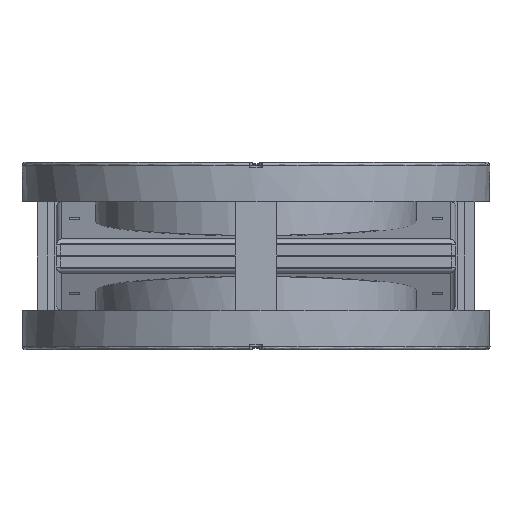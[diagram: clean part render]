
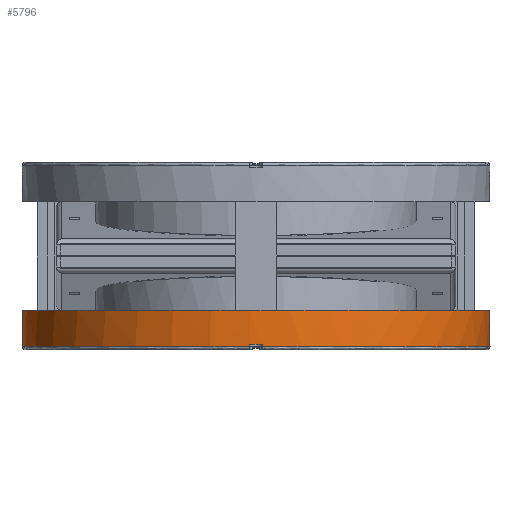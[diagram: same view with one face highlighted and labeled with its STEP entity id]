
A CAD part, front view. The second image highlights one B-rep face of the part: STEP entity #5796.
In plain terms, the highlighted cylindrical face has radius 112.4 mm (diameter 224.8 mm), a full revolution.
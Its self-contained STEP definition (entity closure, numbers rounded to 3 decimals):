
#5796=ADVANCED_FACE('',(#7548,#7549),#7048,.T.);
#7048=CYLINDRICAL_SURFACE('',#25385,112.4);
#7496=ELLIPSE('',#25384,112.829,112.4);
#7548=FACE_BOUND('',#8384,.T.);
#7549=FACE_BOUND('',#8385,.T.);
#8384=EDGE_LOOP('',(#13264,#13265,#13266,#13267,#13268,#13269,#13270,#13271));
#8385=EDGE_LOOP('',(#13272,#13273));
#10126=LINE('',#33390,#11695);
#10127=LINE('',#33394,#11696);
#10128=LINE('',#33398,#11697);
#10129=LINE('',#33402,#11698);
#11695=VECTOR('',#27519,1.);
#11696=VECTOR('',#27522,1.);
#11697=VECTOR('',#27525,1.);
#11698=VECTOR('',#27528,1.);
#13264=ORIENTED_EDGE('',*,*,#21376,.T.);
#13265=ORIENTED_EDGE('',*,*,#21377,.T.);
#13266=ORIENTED_EDGE('',*,*,#21378,.T.);
#13267=ORIENTED_EDGE('',*,*,#21379,.T.);
#13268=ORIENTED_EDGE('',*,*,#21380,.T.);
#13269=ORIENTED_EDGE('',*,*,#21381,.T.);
#13270=ORIENTED_EDGE('',*,*,#21382,.T.);
#13271=ORIENTED_EDGE('',*,*,#21383,.T.);
#13272=ORIENTED_EDGE('',*,*,#21384,.F.);
#13273=ORIENTED_EDGE('',*,*,#21385,.T.);
#19264=VERTEX_POINT('',#33388);
#19265=VERTEX_POINT('',#33389);
#19266=VERTEX_POINT('',#33391);
#19267=VERTEX_POINT('',#33393);
#19268=VERTEX_POINT('',#33395);
#19269=VERTEX_POINT('',#33397);
#19270=VERTEX_POINT('',#33399);
#19271=VERTEX_POINT('',#33401);
#19272=VERTEX_POINT('',#33404);
#19273=VERTEX_POINT('',#33405);
#21376=EDGE_CURVE('',#19264,#19265,#24376,.T.);
#21377=EDGE_CURVE('',#19265,#19266,#10126,.T.);
#21378=EDGE_CURVE('',#19266,#19267,#24377,.T.);
#21379=EDGE_CURVE('',#19267,#19268,#10127,.T.);
#21380=EDGE_CURVE('',#19268,#19269,#24378,.T.);
#21381=EDGE_CURVE('',#19269,#19270,#10128,.T.);
#21382=EDGE_CURVE('',#19270,#19271,#24379,.T.);
#21383=EDGE_CURVE('',#19271,#19264,#10129,.T.);
#21384=EDGE_CURVE('',#19272,#19273,#24380,.T.);
#21385=EDGE_CURVE('',#19272,#19273,#7496,.T.);
#24376=CIRCLE('',#25379,112.4);
#24377=CIRCLE('',#25380,112.4);
#24378=CIRCLE('',#25381,112.4);
#24379=CIRCLE('',#25382,112.4);
#24380=CIRCLE('',#25383,112.4);
#25379=AXIS2_PLACEMENT_3D('',#33387,#27517,#27518);
#25380=AXIS2_PLACEMENT_3D('',#33392,#27520,#27521);
#25381=AXIS2_PLACEMENT_3D('',#33396,#27523,#27524);
#25382=AXIS2_PLACEMENT_3D('',#33400,#27526,#27527);
#25383=AXIS2_PLACEMENT_3D('',#33403,#27529,#27530);
#25384=AXIS2_PLACEMENT_3D('',#33406,#27531,#27532);
#25385=AXIS2_PLACEMENT_3D('',#33407,#27533,#27534);
#27517=DIRECTION('',(1.,0.,0.));
#27518=DIRECTION('',(0.,1.,0.027));
#27519=DIRECTION('',(1.,0.,0.));
#27520=DIRECTION('',(1.,0.,0.));
#27521=DIRECTION('',(0.,-1.,0.027));
#27522=DIRECTION('',(-1.,0.,0.));
#27523=DIRECTION('',(1.,0.,0.));
#27524=DIRECTION('',(0.,-1.,-0.027));
#27525=DIRECTION('',(1.,0.,0.));
#27526=DIRECTION('',(1.,0.,0.));
#27527=DIRECTION('',(0.,1.,-0.027));
#27528=DIRECTION('',(-1.,0.,0.));
#27529=DIRECTION('',(1.,0.,0.));
#27530=DIRECTION('',(0.,-1.,0.));
#27531=DIRECTION('',(-0.996,-0.087,0.));
#27532=DIRECTION('',(0.087,-0.996,0.));
#27533=DIRECTION('',(1.,0.,0.));
#27534=DIRECTION('',(0.,-1.,0.));
#33387=CARTESIAN_POINT('',(-17.5,0.,0.));
#33388=CARTESIAN_POINT('',(-17.5,112.36,3.));
#33389=CARTESIAN_POINT('',(-17.5,-112.36,3.));
#33390=CARTESIAN_POINT('',(-17.5,-112.36,3.));
#33391=CARTESIAN_POINT('',(-16.5,-112.36,3.));
#33392=CARTESIAN_POINT('',(-16.5,0.,0.));
#33393=CARTESIAN_POINT('',(-16.5,-112.36,-3.));
#33394=CARTESIAN_POINT('',(-16.5,-112.36,-3.));
#33395=CARTESIAN_POINT('',(-17.5,-112.36,-3.));
#33396=CARTESIAN_POINT('',(-17.5,0.,0.));
#33397=CARTESIAN_POINT('',(-17.5,112.36,-3.));
#33398=CARTESIAN_POINT('',(-17.5,112.36,-3.));
#33399=CARTESIAN_POINT('',(-16.5,112.36,-3.));
#33400=CARTESIAN_POINT('',(-16.5,0.,0.));
#33401=CARTESIAN_POINT('',(-16.5,112.36,3.));
#33402=CARTESIAN_POINT('',(-16.5,112.36,3.));
#33403=CARTESIAN_POINT('',(0.,0.,0.));
#33404=CARTESIAN_POINT('',(0.,108.597,28.991));
#33405=CARTESIAN_POINT('',(0.,108.597,-28.991));
#33406=CARTESIAN_POINT('',(9.501,0.,0.));
#33407=CARTESIAN_POINT('',(-19.,0.,0.));
